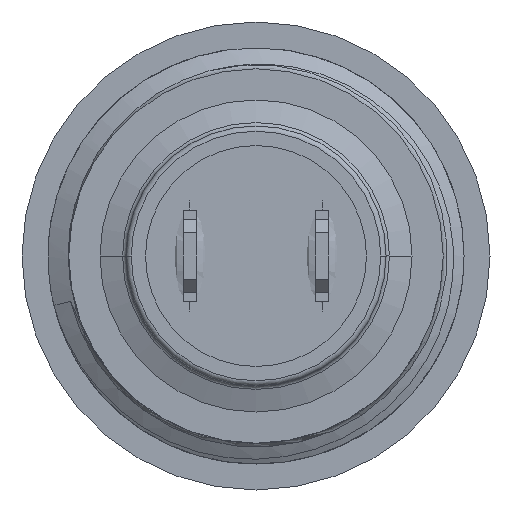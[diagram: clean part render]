
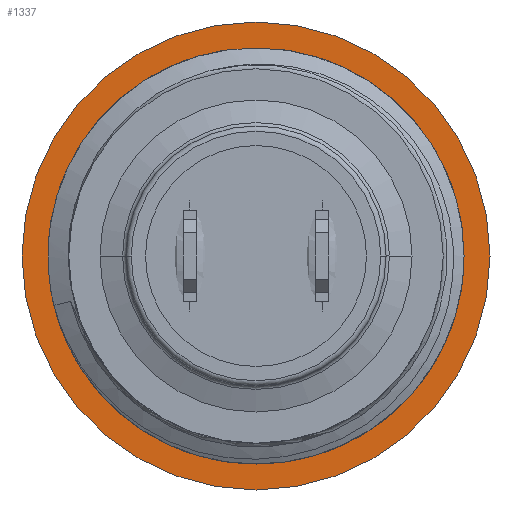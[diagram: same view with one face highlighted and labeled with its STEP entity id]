
A CAD part, front view. The second image highlights one B-rep face of the part: STEP entity #1337.
In plain terms, the highlighted planar face has unit normal (0, -1, 0).
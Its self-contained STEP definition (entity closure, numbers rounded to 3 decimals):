
#77=CARTESIAN_POINT('',(0.,12.,0.));
#78=DIRECTION('',(0.,-1.,0.));
#79=DIRECTION('',(1.,0.,0.));
#80=AXIS2_PLACEMENT_3D('',#77,#78,#79);
#191=CARTESIAN_POINT('',(0.,12.,0.));
#192=DIRECTION('',(0.,1.,0.));
#193=DIRECTION('',(1.,0.,0.));
#194=AXIS2_PLACEMENT_3D('',#191,#192,#193);
#1197=CARTESIAN_POINT('',(9.,12.,0.));
#1199=VERTEX_POINT('',#1197);
#1203=CARTESIAN_POINT('',(-9.,12.,0.));
#1205=VERTEX_POINT('',#1203);
#1326=CARTESIAN_POINT('',(0.,12.,0.));
#1327=DIRECTION('',(0.,-1.,0.));
#1328=DIRECTION('',(-1.,0.,0.));
#1329=AXIS2_PLACEMENT_3D('',#1326,#1327,#1328);
#1330=PLANE('',#1329);
#1332=ORIENTED_EDGE('',*,*,#1331,.F.);
#1334=ORIENTED_EDGE('',*,*,#1333,.T.);
#1335=EDGE_LOOP('',(#1332,#1334));
#1336=FACE_OUTER_BOUND('',#1335,.F.);
#1337=ADVANCED_FACE('',(#1336),#1330,.T.);
#81=CIRCLE('',#80,9.);
#195=CIRCLE('',#194,9.);
#1331=EDGE_CURVE('',#1199,#1205,#81,.T.);
#1333=EDGE_CURVE('',#1199,#1205,#195,.T.);
